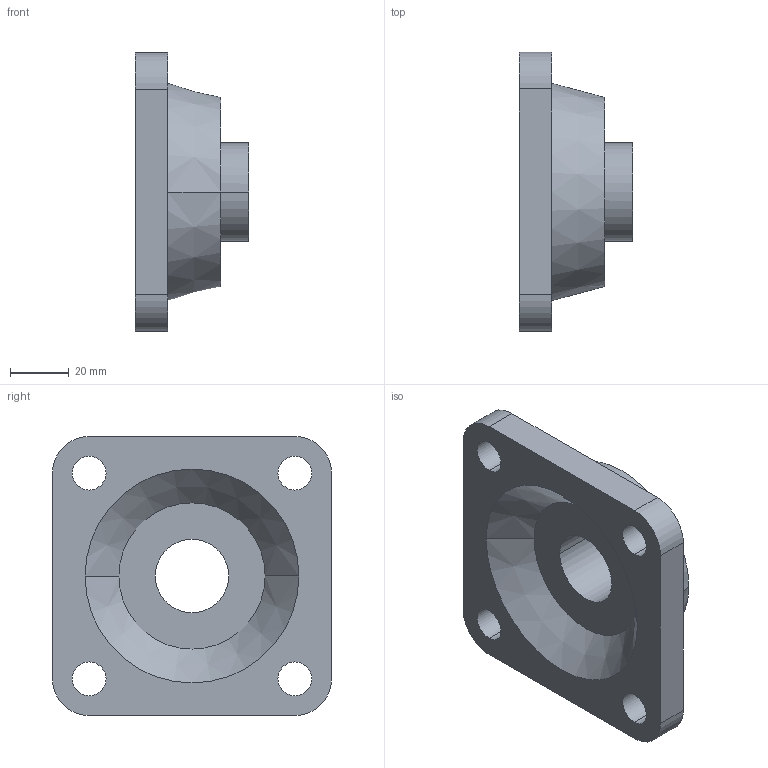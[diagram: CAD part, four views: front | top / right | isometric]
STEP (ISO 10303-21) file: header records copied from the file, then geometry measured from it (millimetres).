
FILE_DESCRIPTION(('SolidDesigner STEP Export'),'2;1');
FILE_NAME('Flanschlager_PCJY_25.stp','2002-07-16T 8:52:25',(''),(''),'SolidDesigner STEP processor Version: 9.0 (March 2001)for AP214(CD)(Solid Model)','CoCreate SolidDesigner: 11.00 12-Dec-2001(C) CoCreate Software GmbH','');
FILE_SCHEMA(('AUTOMOTIVE_DESIGN_CC2 {1 2 10303 214 -1 1 5 1}'));
Length unit declared in the file: millimetre
Products named in the file (1): Flanschlager_PCJY_25
Bounding box: 38.5 x 95 x 95 mm (x, y, z)
Volume: 119121.1 mm3; surface area: 29200 mm2
Topology: 1 solids, 2 shells, 39 faces, 93 edges, 61 vertices
Faces by surface type: cylinder 18, plane 11, cone 6, sphere 4
Entity records: 1015 total; most frequent: ORIENTED_EDGE 194, CARTESIAN_POINT 155, DIRECTION 152, EDGE_CURVE 93, VERTEX_POINT 61, AXIS2_PLACEMENT_3D 58, EDGE_LOOP 54, FACE_OUTER_BOUND 39
